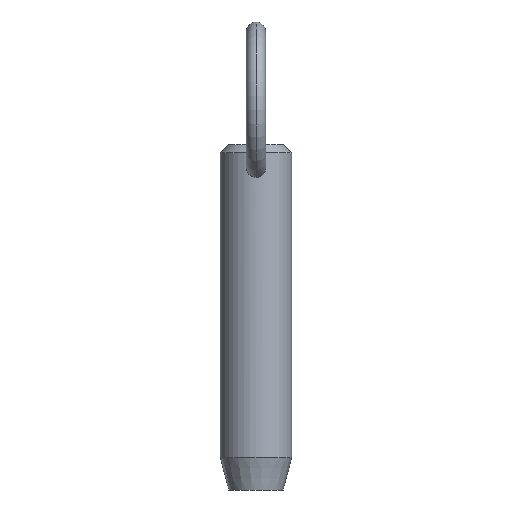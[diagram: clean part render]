
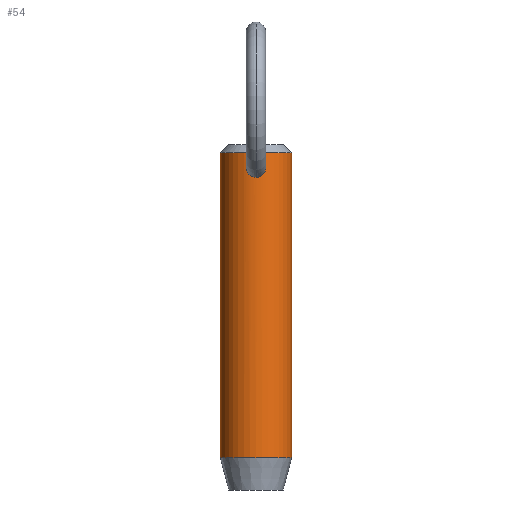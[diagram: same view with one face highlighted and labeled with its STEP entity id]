
A CAD part, front view. The second image highlights one B-rep face of the part: STEP entity #54.
In plain terms, the highlighted cylindrical face has radius 5.55 mm (diameter 11.1 mm), a partial arc.
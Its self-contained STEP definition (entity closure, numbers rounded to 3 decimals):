
#1 = CARTESIAN_POINT ( 'NONE',  ( -0.211, -5.547, 37.729 ) ) ;
#20 = CARTESIAN_POINT ( 'NONE',  ( 0., 0., 33. ) ) ;
#28 = CARTESIAN_POINT ( 'NONE',  ( -0.42, -5.535, 34.332 ) ) ;
#32 = CARTESIAN_POINT ( 'NONE',  ( 0.107, -5.55, 34.277 ) ) ;
#33 = B_SPLINE_CURVE_WITH_KNOTS ( 'NONE', 3,
 ( #480, #429, #231, #28, #109, #397, #146, #522, #267, #193, #439, #484, #156, #359, #270, #75, #119, #235, #436, #525, #319, #402, #240, #1, #116, #76 ),
 .UNSPECIFIED., .F., .F.,
 ( 4, 2, 2, 2, 2, 2, 2, 2, 2, 2, 2, 2, 4 ),
 ( 0.01, 0.01, 0.01, 0.011, 0.011, 0.012, 0.012, 0.012, 0.013, 0.013, 0.014, 0.014, 0.015 ),
 .UNSPECIFIED. ) ;
#39 = CARTESIAN_POINT ( 'NONE',  ( 1.055, -5.449, 34.705 ) ) ;
#40 = CARTESIAN_POINT ( 'NONE',  ( 0.214, -5.547, 37.728 ) ) ;
#43 = CIRCLE ( 'NONE', #150, 5.55 ) ;
#50 = CARTESIAN_POINT ( 'NONE',  ( 5.55, 0., -9.2 ) ) ;
#54 = ADVANCED_FACE ( 'NONE', ( #213, #408 ), #299, .T. ) ;
#68 = EDGE_LOOP ( 'NONE', ( #331, #324, #238, #264 ) ) ;
#70 = CARTESIAN_POINT ( 'NONE',  ( 0.515, -5.527, 37.622 ) ) ;
#75 = CARTESIAN_POINT ( 'NONE',  ( -1.485, -5.348, 36.179 ) ) ;
#76 = CARTESIAN_POINT ( 'NONE',  ( 0., -5.55, 37.745 ) ) ;
#79 = CARTESIAN_POINT ( 'NONE',  ( 0.977, -5.464, 34.632 ) ) ;
#94 = DIRECTION ( 'NONE',  ( 0., 0., -1. ) ) ;
#109 = CARTESIAN_POINT ( 'NONE',  ( -0.523, -5.526, 34.366 ) ) ;
#116 = CARTESIAN_POINT ( 'NONE',  ( -0.106, -5.55, 37.745 ) ) ;
#119 = CARTESIAN_POINT ( 'NONE',  ( -1.44, -5.36, 36.387 ) ) ;
#121 = CARTESIAN_POINT ( 'NONE',  ( 0.807, -5.492, 34.506 ) ) ;
#123 = DIRECTION ( 'NONE',  ( -1., 0., 0. ) ) ;
#125 = VERTEX_POINT ( 'NONE', #343 ) ;
#127 = EDGE_CURVE ( 'NONE', #348, #230, #442, .T. ) ;
#133 = DIRECTION ( 'NONE',  ( 0., 0., -1. ) ) ;
#140 = DIRECTION ( 'NONE',  ( 1., 0., 0. ) ) ;
#141 = DIRECTION ( 'NONE',  ( 0., 0., -1. ) ) ;
#146 = CARTESIAN_POINT ( 'NONE',  ( -0.807, -5.492, 34.505 ) ) ;
#147 = B_SPLINE_CURVE_WITH_KNOTS ( 'NONE', 3,
 ( #489, #523, #40, #444, #70, #237, #321, #405, #153, #268, #527, #151, #274, #323, #195, #197, #273, #39, #79, #121, #316, #363, #407, #158, #32, #446 ),
 .UNSPECIFIED., .F., .F.,
 ( 4, 2, 2, 2, 2, 2, 2, 2, 2, 2, 2, 2, 4 ),
 ( 0.005, 0.005, 0.005, 0.006, 0.006, 0.007, 0.007, 0.008, 0.008, 0.009, 0.009, 0.009, 0.01 ),
 .UNSPECIFIED. ) ;
#150 = AXIS2_PLACEMENT_3D ( 'NONE', #281, #492, #123 ) ;
#151 = CARTESIAN_POINT ( 'NONE',  ( 1.503, -5.343, 35.859 ) ) ;
#153 = CARTESIAN_POINT ( 'NONE',  ( 1.295, -5.397, 36.782 ) ) ;
#156 = CARTESIAN_POINT ( 'NONE',  ( -1.477, -5.35, 35.542 ) ) ;
#158 = CARTESIAN_POINT ( 'NONE',  ( 0.213, -5.547, 34.288 ) ) ;
#163 = CARTESIAN_POINT ( 'NONE',  ( -5.55, 0., 38.05 ) ) ;
#193 = CARTESIAN_POINT ( 'NONE',  ( -1.26, -5.407, 34.942 ) ) ;
#195 = CARTESIAN_POINT ( 'NONE',  ( 1.455, -5.356, 35.438 ) ) ;
#197 = CARTESIAN_POINT ( 'NONE',  ( 1.363, -5.38, 35.134 ) ) ;
#198 = CIRCLE ( 'NONE', #222, 5.55 ) ;
#213 = FACE_OUTER_BOUND ( 'NONE', #68, .T. ) ;
#218 = EDGE_CURVE ( 'NONE', #524, #472, #330, .T. ) ;
#222 = AXIS2_PLACEMENT_3D ( 'NONE', #418, #133, #140 ) ;
#230 = VERTEX_POINT ( 'NONE', #350 ) ;
#231 = CARTESIAN_POINT ( 'NONE',  ( -0.212, -5.547, 34.288 ) ) ;
#235 = CARTESIAN_POINT ( 'NONE',  ( -1.294, -5.398, 36.786 ) ) ;
#237 = CARTESIAN_POINT ( 'NONE',  ( 0.786, -5.497, 37.457 ) ) ;
#238 = ORIENTED_EDGE ( 'NONE', *, *, #127, .T. ) ;
#240 = CARTESIAN_POINT ( 'NONE',  ( -0.416, -5.535, 37.667 ) ) ;
#244 = EDGE_CURVE ( 'NONE', #125, #338, #33, .T. ) ;
#254 = CARTESIAN_POINT ( 'NONE',  ( -5.55, 0., 33. ) ) ;
#256 = CARTESIAN_POINT ( 'NONE',  ( 5.55, 0., 38.05 ) ) ;
#259 = EDGE_CURVE ( 'NONE', #338, #125, #147, .T. ) ;
#264 = ORIENTED_EDGE ( 'NONE', *, *, #329, .T. ) ;
#267 = CARTESIAN_POINT ( 'NONE',  ( -1.054, -5.449, 34.704 ) ) ;
#268 = CARTESIAN_POINT ( 'NONE',  ( 1.44, -5.36, 36.386 ) ) ;
#270 = CARTESIAN_POINT ( 'NONE',  ( -1.503, -5.343, 35.859 ) ) ;
#273 = CARTESIAN_POINT ( 'NONE',  ( 1.26, -5.407, 34.943 ) ) ;
#274 = CARTESIAN_POINT ( 'NONE',  ( 1.5, -5.343, 35.754 ) ) ;
#281 = CARTESIAN_POINT ( 'NONE',  ( 0., 0., -9.2 ) ) ;
#291 = ORIENTED_EDGE ( 'NONE', *, *, #244, .T. ) ;
#299 = CYLINDRICAL_SURFACE ( 'NONE', #423, 5.55 ) ;
#316 = CARTESIAN_POINT ( 'NONE',  ( 0.716, -5.504, 34.452 ) ) ;
#319 = CARTESIAN_POINT ( 'NONE',  ( -0.785, -5.497, 37.458 ) ) ;
#321 = CARTESIAN_POINT ( 'NONE',  ( 0.941, -5.471, 37.307 ) ) ;
#323 = CARTESIAN_POINT ( 'NONE',  ( 1.477, -5.35, 35.544 ) ) ;
#324 = ORIENTED_EDGE ( 'NONE', *, *, #438, .T. ) ;
#329 = EDGE_CURVE ( 'NONE', #230, #472, #43, .T. ) ;
#330 = LINE ( 'NONE', #515, #416 ) ;
#331 = ORIENTED_EDGE ( 'NONE', *, *, #218, .F. ) ;
#338 = VERTEX_POINT ( 'NONE', #377 ) ;
#343 = CARTESIAN_POINT ( 'NONE',  ( 0., -5.55, 34.277 ) ) ;
#348 = VERTEX_POINT ( 'NONE', #163 ) ;
#350 = CARTESIAN_POINT ( 'NONE',  ( -5.55, 0., -9.2 ) ) ;
#359 = CARTESIAN_POINT ( 'NONE',  ( -1.5, -5.343, 35.753 ) ) ;
#363 = CARTESIAN_POINT ( 'NONE',  ( 0.523, -5.526, 34.366 ) ) ;
#377 = CARTESIAN_POINT ( 'NONE',  ( 0., -5.55, 37.745 ) ) ;
#378 = DIRECTION ( 'NONE',  ( 0., 0., -1. ) ) ;
#397 = CARTESIAN_POINT ( 'NONE',  ( -0.716, -5.504, 34.452 ) ) ;
#402 = CARTESIAN_POINT ( 'NONE',  ( -0.513, -5.527, 37.623 ) ) ;
#405 = CARTESIAN_POINT ( 'NONE',  ( 1.194, -5.422, 36.971 ) ) ;
#407 = CARTESIAN_POINT ( 'NONE',  ( 0.421, -5.535, 34.332 ) ) ;
#408 = FACE_BOUND ( 'NONE', #485, .T. ) ;
#416 = VECTOR ( 'NONE', #141, 1000. ) ;
#418 = CARTESIAN_POINT ( 'NONE',  ( 0., 0., 38.05 ) ) ;
#422 = DIRECTION ( 'NONE',  ( -1., 0., 0. ) ) ;
#423 = AXIS2_PLACEMENT_3D ( 'NONE', #20, #378, #422 ) ;
#428 = VECTOR ( 'NONE', #94, 1000. ) ;
#429 = CARTESIAN_POINT ( 'NONE',  ( -0.107, -5.55, 34.277 ) ) ;
#436 = CARTESIAN_POINT ( 'NONE',  ( -1.195, -5.421, 36.971 ) ) ;
#438 = EDGE_CURVE ( 'NONE', #524, #348, #198, .T. ) ;
#439 = CARTESIAN_POINT ( 'NONE',  ( -1.362, -5.381, 35.132 ) ) ;
#442 = LINE ( 'NONE', #254, #428 ) ;
#444 = CARTESIAN_POINT ( 'NONE',  ( 0.417, -5.535, 37.667 ) ) ;
#446 = CARTESIAN_POINT ( 'NONE',  ( 0., -5.55, 34.277 ) ) ;
#461 = ORIENTED_EDGE ( 'NONE', *, *, #259, .T. ) ;
#472 = VERTEX_POINT ( 'NONE', #50 ) ;
#480 = CARTESIAN_POINT ( 'NONE',  ( 0., -5.55, 34.277 ) ) ;
#484 = CARTESIAN_POINT ( 'NONE',  ( -1.455, -5.356, 35.436 ) ) ;
#485 = EDGE_LOOP ( 'NONE', ( #461, #291 ) ) ;
#489 = CARTESIAN_POINT ( 'NONE',  ( 0., -5.55, 37.745 ) ) ;
#492 = DIRECTION ( 'NONE',  ( 0., 0., 1. ) ) ;
#515 = CARTESIAN_POINT ( 'NONE',  ( 5.55, 0., 33. ) ) ;
#522 = CARTESIAN_POINT ( 'NONE',  ( -0.976, -5.464, 34.631 ) ) ;
#523 = CARTESIAN_POINT ( 'NONE',  ( 0.106, -5.55, 37.745 ) ) ;
#524 = VERTEX_POINT ( 'NONE', #256 ) ;
#525 = CARTESIAN_POINT ( 'NONE',  ( -0.939, -5.472, 37.31 ) ) ;
#527 = CARTESIAN_POINT ( 'NONE',  ( 1.486, -5.347, 36.174 ) ) ;
